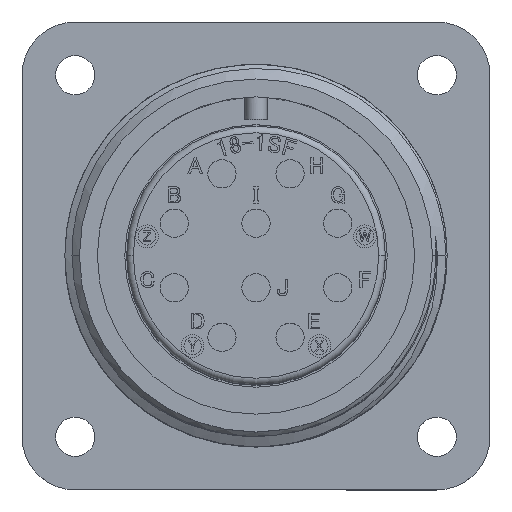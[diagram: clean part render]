
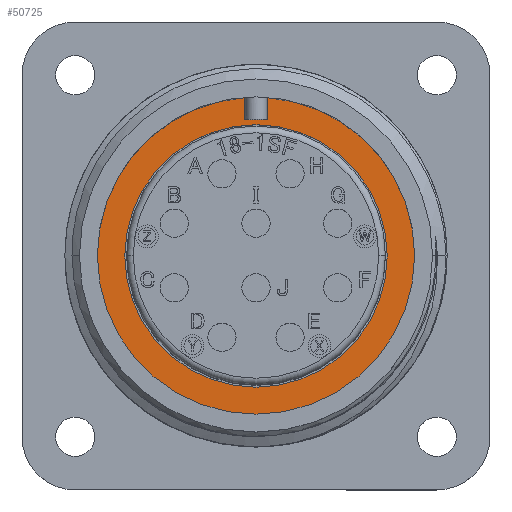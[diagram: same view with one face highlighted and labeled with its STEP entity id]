
A CAD part, top view. The second image highlights one B-rep face of the part: STEP entity #50725.
In plain terms, the highlighted planar face has unit normal (0, 0, 1).
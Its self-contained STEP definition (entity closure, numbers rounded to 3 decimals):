
#217 = DIRECTION ( 'NONE',  ( 1., 0., 0. ) ) ;
#2342 = AXIS2_PLACEMENT_3D ( 'NONE', #18395, #57428, #23966 ) ;
#2838 = CARTESIAN_POINT ( 'NONE',  ( -9.795, 0., -19.18 ) ) ;
#5422 = LINE ( 'NONE', #54692, #29763 ) ;
#6270 = VERTEX_POINT ( 'NONE', #64050 ) ;
#10153 = DIRECTION ( 'NONE',  ( 0., 0., 1. ) ) ;
#11095 = VECTOR ( 'NONE', #42406, 1000. ) ;
#11162 = CIRCLE ( 'NONE', #2342, 9.795 ) ;
#11470 = ORIENTED_EDGE ( 'NONE', *, *, #52567, .T. ) ;
#12285 = ORIENTED_EDGE ( 'NONE', *, *, #67913, .T. ) ;
#16317 = AXIS2_PLACEMENT_3D ( 'NONE', #24640, #63679, #30235 ) ;
#16495 = EDGE_CURVE ( 'NONE', #24794, #19252, #52713, .T. ) ;
#16774 = CARTESIAN_POINT ( 'NONE',  ( 0., 11.84, -19.18 ) ) ;
#18395 = CARTESIAN_POINT ( 'NONE',  ( 0., 0., -19.18 ) ) ;
#19213 = CIRCLE ( 'NONE', #28370, 9.795 ) ;
#19252 = VERTEX_POINT ( 'NONE', #34769 ) ;
#20760 = CARTESIAN_POINT ( 'NONE',  ( 9.795, 0., -19.18 ) ) ;
#20857 = ORIENTED_EDGE ( 'NONE', *, *, #16495, .T. ) ;
#21821 = AXIS2_PLACEMENT_3D ( 'NONE', #16774, #33514, #217 ) ;
#22111 = PLANE ( 'NONE',  #21821 ) ;
#22309 = EDGE_CURVE ( 'NONE', #65915, #54325, #31618, .T. ) ;
#22350 = VERTEX_POINT ( 'NONE', #20760 ) ;
#23966 = DIRECTION ( 'NONE',  ( 1., 0., 0. ) ) ;
#24475 = CARTESIAN_POINT ( 'NONE',  ( -0.825, 10.16, -19.18 ) ) ;
#24640 = CARTESIAN_POINT ( 'NONE',  ( 0., 0., -19.18 ) ) ;
#24794 = VERTEX_POINT ( 'NONE', #70730 ) ;
#25789 = EDGE_CURVE ( 'NONE', #22350, #49508, #19213, .T. ) ;
#26092 = DIRECTION ( 'NONE',  ( 0., 0., 1. ) ) ;
#26775 = EDGE_CURVE ( 'NONE', #6270, #61373, #47888, .T. ) ;
#28011 = AXIS2_PLACEMENT_3D ( 'NONE', #62246, #28793, #67851 ) ;
#28370 = AXIS2_PLACEMENT_3D ( 'NONE', #43484, #10153, #49119 ) ;
#28793 = DIRECTION ( 'NONE',  ( 0., 0., 1. ) ) ;
#29763 = VECTOR ( 'NONE', #71457, 1000. ) ;
#30020 = FACE_OUTER_BOUND ( 'NONE', #31783, .T. ) ;
#30235 = DIRECTION ( 'NONE',  ( 1., 0., 0. ) ) ;
#31107 = ORIENTED_EDGE ( 'NONE', *, *, #67199, .F. ) ;
#31618 = CIRCLE ( 'NONE', #59594, 11.84 ) ;
#31783 = EDGE_LOOP ( 'NONE', ( #35440, #11470, #20857, #12285, #34177, #67331 ) ) ;
#33514 = DIRECTION ( 'NONE',  ( 0., 0., 1. ) ) ;
#34177 = ORIENTED_EDGE ( 'NONE', *, *, #26775, .T. ) ;
#34769 = CARTESIAN_POINT ( 'NONE',  ( 0.825, 11.811, -19.18 ) ) ;
#35440 = ORIENTED_EDGE ( 'NONE', *, *, #22309, .T. ) ;
#36766 = CARTESIAN_POINT ( 'NONE',  ( 0.825, 500000., -19.18 ) ) ;
#42406 = DIRECTION ( 'NONE',  ( 0., -1., 0. ) ) ;
#43484 = CARTESIAN_POINT ( 'NONE',  ( 0., 0., -19.18 ) ) ;
#43831 = CIRCLE ( 'NONE', #16317, 11.84 ) ;
#46145 = VECTOR ( 'NONE', #59930, 1000. ) ;
#47888 = LINE ( 'NONE', #54588, #46145 ) ;
#48384 = FACE_BOUND ( 'NONE', #58849, .T. ) ;
#49119 = DIRECTION ( 'NONE',  ( 1., 0., 0. ) ) ;
#49508 = VERTEX_POINT ( 'NONE', #2838 ) ;
#50725 = ADVANCED_FACE ( 'NONE', ( #48384, #30020 ), #22111, .T. ) ;
#52567 = EDGE_CURVE ( 'NONE', #54325, #24794, #43831, .T. ) ;
#52713 = CIRCLE ( 'NONE', #28011, 11.84 ) ;
#53802 = LINE ( 'NONE', #36766, #11095 ) ;
#54325 = VERTEX_POINT ( 'NONE', #65701 ) ;
#54588 = CARTESIAN_POINT ( 'NONE',  ( 0.825, 10.16, -19.18 ) ) ;
#54692 = CARTESIAN_POINT ( 'NONE',  ( -0.825, 500000., -19.18 ) ) ;
#54837 = EDGE_CURVE ( 'NONE', #65915, #61373, #5422, .T. ) ;
#57428 = DIRECTION ( 'NONE',  ( 0., 0., 1. ) ) ;
#58849 = EDGE_LOOP ( 'NONE', ( #61247, #31107 ) ) ;
#59549 = CARTESIAN_POINT ( 'NONE',  ( 0., 0., -19.18 ) ) ;
#59594 = AXIS2_PLACEMENT_3D ( 'NONE', #59549, #26092, #65126 ) ;
#59930 = DIRECTION ( 'NONE',  ( -1., 0., 0. ) ) ;
#61247 = ORIENTED_EDGE ( 'NONE', *, *, #25789, .F. ) ;
#61373 = VERTEX_POINT ( 'NONE', #24475 ) ;
#62246 = CARTESIAN_POINT ( 'NONE',  ( 0., 0., -19.18 ) ) ;
#63679 = DIRECTION ( 'NONE',  ( 0., 0., 1. ) ) ;
#64050 = CARTESIAN_POINT ( 'NONE',  ( 0.825, 10.16, -19.18 ) ) ;
#65126 = DIRECTION ( 'NONE',  ( 1., 0., 0. ) ) ;
#65701 = CARTESIAN_POINT ( 'NONE',  ( -11.84, 0., -19.18 ) ) ;
#65915 = VERTEX_POINT ( 'NONE', #70856 ) ;
#67199 = EDGE_CURVE ( 'NONE', #49508, #22350, #11162, .T. ) ;
#67331 = ORIENTED_EDGE ( 'NONE', *, *, #54837, .F. ) ;
#67851 = DIRECTION ( 'NONE',  ( 1., 0., 0. ) ) ;
#67913 = EDGE_CURVE ( 'NONE', #19252, #6270, #53802, .T. ) ;
#70730 = CARTESIAN_POINT ( 'NONE',  ( 11.84, 0., -19.18 ) ) ;
#70856 = CARTESIAN_POINT ( 'NONE',  ( -0.825, 11.811, -19.18 ) ) ;
#71457 = DIRECTION ( 'NONE',  ( 0., -1., 0. ) ) ;
